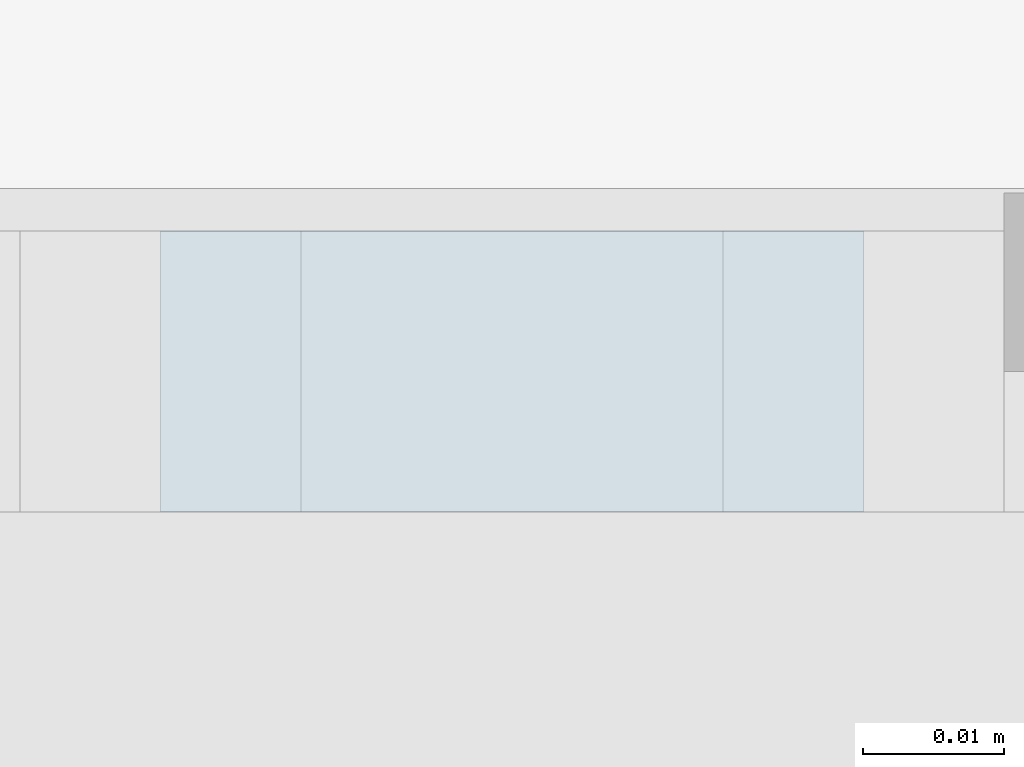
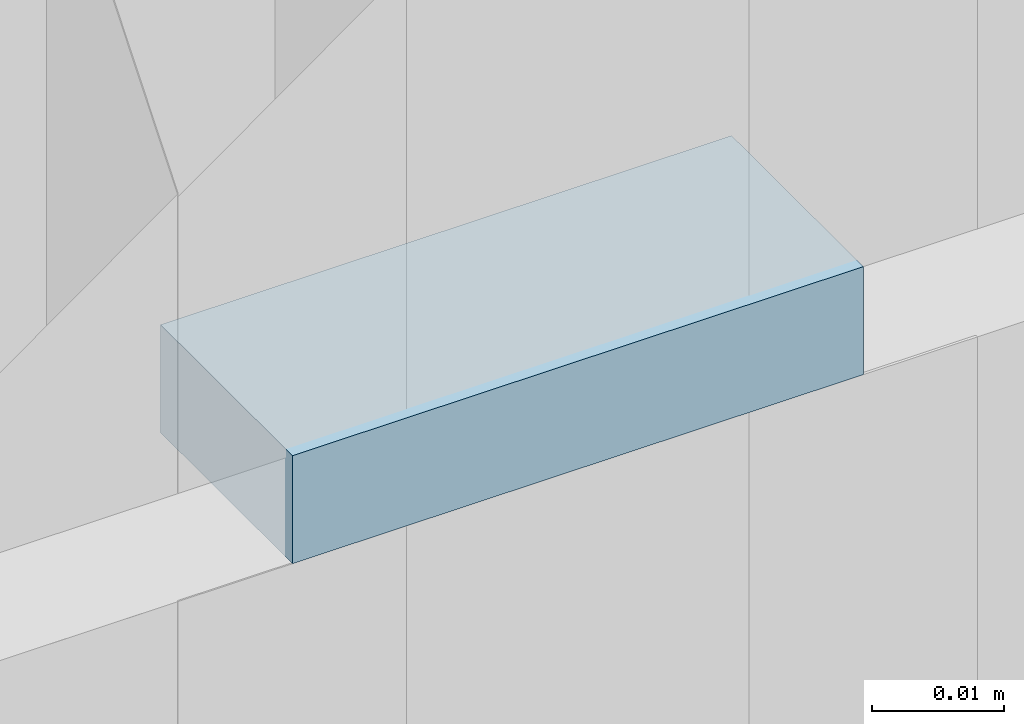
# One storey, part 39 of 66: 1 plate, 1 element without a shape of its own.
"""IFC2X3 building model written with IfcOpenShell, lengths in millimetres."""

import ifcopenshell
import ifcopenshell.guid

model = None  # the IFC model being written
_history = None  # IfcOwnerHistory: only IFC2X3 demands one
_inside = {}  # id of a spatial element -> (the spatial element, [elements in it])
_under = {}  # id of a project, library or spatial element -> (it, [spatial elements below it])
_declared = {}  # id of a project -> (the project, [libraries it declares])
_typed = {}  # id of a type object -> (the type object, [elements of that type])
_made_of = {}  # id of a material, layer set ... -> (it, [elements and type objects made of it])


def new_model(schema):
    """Start an empty IFC model of exactly this schema.

    Asked for "IFC4X3", IfcOpenShell would pick the latest addendum, in which some entities
    have other attributes; the version numbers below select the first issue.
    IFC2X3 requires an IfcOwnerHistory on every rooted entity: one is made here for all.
    """
    global model, _history
    if schema == "IFC4X3":
        model = ifcopenshell.file(schema_version=(4, 3, 0, 0))
    else:
        model = ifcopenshell.file(schema=schema)
    _inside.clear()
    _under.clear()
    _declared.clear()
    _typed.clear()
    _made_of.clear()
    _history = None
    if model.schema == "IFC2X3":
        org = make("IfcOrganization", Name="unknown")
        user = make(
            "IfcPersonAndOrganization",
            ThePerson=make("IfcPerson", FamilyName="unknown"),
            TheOrganization=org,
        )
        app = make(
            "IfcApplication",
            ApplicationDeveloper=org,
            Version="unknown",
            ApplicationFullName="unknown",
            ApplicationIdentifier="unknown",
        )
        _history = make(
            "IfcOwnerHistory",
            OwningUser=user,
            OwningApplication=app,
            ChangeAction="ADDED",
            CreationDate=0,
        )
    return model


def make(cls, **values):
    """One entity of the class cls with the attributes given. An attribute that is None is left unset."""
    return model.create_entity(
        cls, **{name: value for name, value in values.items() if value is not None}
    )


def entity(cls, *values):
    """Any entity or typed value of the class cls, its attributes in the order of the schema. None: left unset."""
    e = model.create_entity(cls)
    for i, value in enumerate(values):
        if value is not None:
            e[i] = value
    return e


def rooted(cls, **values):
    """An entity with a GlobalId (a new one), such as an element, a storey or a relation."""
    return make(cls, GlobalId=ifcopenshell.guid.new(), OwnerHistory=_history, **values)


def si_unit(unit_type, name, prefix=None):
    """IfcSIUnit, for example si_unit("LENGTHUNIT", "METRE", prefix="MILLI")."""
    return make("IfcSIUnit", UnitType=unit_type, Prefix=prefix, Name=name)


def converted_unit(unit_type, name, factor, base, dimensions=None, offset=None):
    """IfcConversionBasedUnit, such as the inch: factor (a typed value) times the base unit."""
    return make(
        "IfcConversionBasedUnit"
        if offset is None
        else "IfcConversionBasedUnitWithOffset",
        ConversionOffset=offset,
        Dimensions=None
        if dimensions is None
        else entity("IfcDimensionalExponents", *dimensions),
        UnitType=unit_type,
        Name=name,
        ConversionFactor=make(
            "IfcMeasureWithUnit", ValueComponent=factor, UnitComponent=base
        ),
    )


def derived_unit(unit_type, elements):
    """IfcDerivedUnit: a product of units, each with its exponent."""
    return make(
        "IfcDerivedUnit",
        Elements=[
            make("IfcDerivedUnitElement", Unit=unit, Exponent=power)
            for unit, power in elements
        ],
        UnitType=unit_type,
    )


def assignment(units):
    """IfcUnitAssignment: the units of a project."""
    return None if units is None else make("IfcUnitAssignment", Units=units)


def point(xyz):
    """IfcCartesianPoint."""
    return None if xyz is None else make("IfcCartesianPoint", Coordinates=xyz)


def direction(xyz):
    """IfcDirection."""
    return None if xyz is None else make("IfcDirection", DirectionRatios=xyz)


def frame(location, z_axis=None, x_axis=None):
    """IfcAxis2Placement3D, a coordinate frame: its origin and axes. An axis left out is left unset."""
    return make(
        "IfcAxis2Placement3D",
        Location=point(location),
        Axis=direction(z_axis),
        RefDirection=direction(x_axis),
    )


def frame_2d(location, x_axis=None):
    """IfcAxis2Placement2D, a coordinate frame in the plane: its origin and x axis."""
    return make(
        "IfcAxis2Placement2D", Location=point(location), RefDirection=direction(x_axis)
    )


def origin():
    """The frame at (0, 0, 0) with its axes left unset."""
    return frame((0.0, 0.0, 0.0))


def origin_2d_with_axis():
    """The frame at (0, 0) in the plane with the x axis (1, 0) written out."""
    return frame_2d((0.0, 0.0), x_axis=(1.0, 0.0))


def place(relative_to, where):
    """IfcLocalPlacement: puts the frame where relative to a parent placement (None: the world)."""
    return make(
        "IfcLocalPlacement", PlacementRelTo=relative_to, RelativePlacement=where
    )


def context(
    kind, dimensions, precision=None, world=None, true_north=None, identifier=None
):
    """IfcGeometricRepresentationContext, for example the 3D "Model" context."""
    return make(
        "IfcGeometricRepresentationContext",
        ContextIdentifier=identifier,
        ContextType=kind,
        CoordinateSpaceDimension=dimensions,
        Precision=precision,
        WorldCoordinateSystem=world,
        TrueNorth=true_north,
    )


def subcontext(parent, identifier, kind, view, scale=None):
    """IfcGeometricRepresentationSubContext, for example "Body" below "Model"."""
    return make(
        "IfcGeometricRepresentationSubContext",
        ContextIdentifier=identifier,
        ContextType=kind,
        ParentContext=parent,
        TargetScale=scale,
        TargetView=view,
    )


def project(units=None, contexts=None):
    """IfcProject with its units and contexts."""
    return rooted(
        "IfcProject",
        Name="project",
        RepresentationContexts=contexts,
        UnitsInContext=assignment(units),
    )


def spatial(cls, under=None, at=None, **own):
    """A site, building, storey or space (cls), placed at a placement, below another one or the project."""
    s = rooted(cls, ObjectPlacement=at, **own)
    if under is not None:
        _under.setdefault(under.id(), (under, []))[1].append(s)
    return s


def profile(cls, at=None, kind="AREA", **sizes):
    """A parametric profile (cls). Its sizes go by their IFC names, for example OverallWidth=200.0."""
    return make(cls, ProfileType=kind, Position=at, **sizes)


def rectangle(**sizes):
    """IfcRectangleProfileDef."""
    return profile("IfcRectangleProfileDef", **sizes)


def extrude(swept, where, along, depth):
    """IfcExtrudedAreaSolid: the profile swept, set in the frame where, extruded along a direction by depth."""
    return make(
        "IfcExtrudedAreaSolid",
        SweptArea=swept,
        Position=where,
        ExtrudedDirection=direction(along),
        Depth=depth,
    )


def shape(context_of_items, identifier, shape_type, items):
    """IfcShapeRepresentation: the items that make up one representation, for example the "Body"."""
    return make(
        "IfcShapeRepresentation",
        ContextOfItems=context_of_items,
        RepresentationIdentifier=identifier,
        RepresentationType=shape_type,
        Items=items,
    )


def source(mapping_origin, context_of_items, identifier, shape_type, items):
    """IfcRepresentationMap: a shape defined once, which mapped items show again and again."""
    return make(
        "IfcRepresentationMap",
        MappingOrigin=mapping_origin,
        MappedRepresentation=shape(context_of_items, identifier, shape_type, items),
    )


def transform(
    local_origin,
    x_axis=None,
    y_axis=None,
    z_axis=None,
    scale=None,
    scale2=None,
    scale3=None,
    uniform=True,
):
    """IfcCartesianTransformationOperator3D, or its non-uniform kind. x_axis, y_axis, z_axis: its Axis1, 2, 3."""
    if uniform:
        return make(
            "IfcCartesianTransformationOperator3D",
            Axis1=direction(x_axis),
            Axis2=direction(y_axis),
            LocalOrigin=point(local_origin),
            Scale=scale,
            Axis3=direction(z_axis),
        )
    return make(
        "IfcCartesianTransformationOperator3DnonUniform",
        Axis1=direction(x_axis),
        Axis2=direction(y_axis),
        LocalOrigin=point(local_origin),
        Scale=scale,
        Axis3=direction(z_axis),
        Scale2=scale2,
        Scale3=scale3,
    )


def mapped(mapping_source, mapping_target):
    """IfcMappedItem: shows the shape of a source again, moved by a transform."""
    return make(
        "IfcMappedItem", MappingSource=mapping_source, MappingTarget=mapping_target
    )


def material(Name=None, Category=None):
    """IfcMaterial."""
    return make("IfcMaterial", Name=Name, Category=Category)


def layer(
    of_material, thickness, ventilated=None, Name=None, Category=None, Priority=None
):
    """IfcMaterialLayer: one layer of a wall or slab, of a material (None: an air gap)."""
    return make(
        "IfcMaterialLayer",
        Material=of_material,
        LayerThickness=thickness,
        IsVentilated=ventilated,
        Name=Name,
        Category=Category,
        Priority=Priority,
    )


def layer_set(layers, Name=None):
    """IfcMaterialLayerSet."""
    return make("IfcMaterialLayerSet", MaterialLayers=layers, LayerSetName=Name)


def layer_usage(for_layer_set, set_direction, sense, offset, extent=None):
    """IfcMaterialLayerSetUsage: how a layer set lies in its element."""
    return make(
        "IfcMaterialLayerSetUsage",
        ForLayerSet=for_layer_set,
        LayerSetDirection=set_direction,
        DirectionSense=sense,
        OffsetFromReferenceLine=offset,
        ReferenceExtent=extent,
    )


def made_of(thing, what):
    """Note that an element or type object is made of a material, layer set ...; save() writes the relation."""
    if what is not None:
        _made_of.setdefault(what.id(), (what, []))[1].append(thing)
    return thing


def type_object(cls, material=None, **own):
    """A type object (cls), such as IfcWallType, which elements share."""
    return made_of(rooted(cls, **own), material)


def type_shapes(of_type, sources):
    """Give a type object the sources (RepresentationMaps) that its elements show as mapped items."""
    of_type.RepresentationMaps = sources


def element(
    cls,
    number,
    at=None,
    inside=None,
    cuts=None,
    type_object=None,
    material=None,
    context=None,
    identifier="Body",
    shape_type=None,
    held_by="IfcProductDefinitionShape",
    body=None,
    shapes=None,
    **own,
):
    """One element of the class cls, such as IfcWall. Its Tag is "e" and its number.

    at: its placement. inside: the storey or other place that contains it. cuts: it is an
    opening in that element (IfcRelVoidsElement). A single representation is given by context,
    identifier, shape_type and body (its items); several are given by shapes. held_by: the class
    of the entity that holds the representations. save() writes the other relations.
    """
    e = rooted(cls, Tag="e%d" % number, ObjectPlacement=at, **own)
    if body is not None:
        shapes = [shape(context, identifier, shape_type, body)]
    if shapes is not None:
        e.Representation = make(held_by, Representations=shapes)
    if inside is not None:
        _inside.setdefault(inside.id(), (inside, []))[1].append(e)
    if cuts is not None:
        rooted(
            "IfcRelVoidsElement", RelatingBuildingElement=cuts, RelatedOpeningElement=e
        )
    if type_object is not None:
        _typed.setdefault(type_object.id(), (type_object, []))[1].append(e)
    return made_of(e, material)


def aggregate(whole, parts):
    """IfcRelAggregates: a whole, such as a stair, and the parts it consists of."""
    return rooted("IfcRelAggregates", RelatingObject=whole, RelatedObjects=parts)


def save(model, path):
    """Write the relations noted so far, then the file.

    IfcRelAggregates (storeys below a building ...), IfcRelContainedInSpatialStructure (elements
    in a storey), IfcRelDefinesByType, IfcRelAssociatesMaterial and IfcRelDeclares: one each for
    every whole, place, type object, material and project.
    """
    for whole, parts in _under.values():
        aggregate(whole, parts)
    for where, things in _inside.values():
        rooted(
            "IfcRelContainedInSpatialStructure",
            RelatedElements=things,
            RelatingStructure=where,
        )
    for kind, things in _typed.values():
        rooted("IfcRelDefinesByType", RelatedObjects=things, RelatingType=kind)
    for what, things in _made_of.values():
        rooted("IfcRelAssociatesMaterial", RelatedObjects=things, RelatingMaterial=what)
    for by, libraries in _declared.values():
        rooted("IfcRelDeclares", RelatingContext=by, RelatedDefinitions=libraries)
    model.write(path)


model = new_model("IFC2X3")

# Units and contexts
model_context = context("Model", 3, precision=0.01, world=origin(), true_north=direction((6.12303176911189e-17, 1.0)))
body_context = subcontext(model_context, "Body", "Model", "MODEL_VIEW")
ifc_project = project(units=[si_unit("LENGTHUNIT", "METRE", prefix="MILLI"), si_unit("AREAUNIT", "SQUARE_METRE"), si_unit("VOLUMEUNIT", "CUBIC_METRE"), converted_unit("PLANEANGLEUNIT", "DEGREE", entity("IfcRatioMeasure", 0.0174532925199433), si_unit("PLANEANGLEUNIT", "RADIAN"), dimensions=[0, 0, 0, 0, 0, 0, 0]), si_unit("MASSUNIT", "GRAM", prefix="KILO"), derived_unit("MASSDENSITYUNIT", [(si_unit("MASSUNIT", "GRAM", prefix="KILO"), 1), (si_unit("LENGTHUNIT", "METRE"), -3)]), si_unit("TIMEUNIT", "SECOND"), si_unit("FREQUENCYUNIT", "HERTZ"), si_unit("THERMODYNAMICTEMPERATUREUNIT", "DEGREE_CELSIUS"), derived_unit("THERMALTRANSMITTANCEUNIT", [(si_unit("MASSUNIT", "GRAM", prefix="KILO"), 1), (si_unit("THERMODYNAMICTEMPERATUREUNIT", "KELVIN"), -1), (si_unit("TIMEUNIT", "SECOND"), -3)]), derived_unit("VOLUMETRICFLOWRATEUNIT", [(si_unit("LENGTHUNIT", "METRE"), 3), (si_unit("TIMEUNIT", "SECOND"), -1)]), si_unit("ELECTRICCURRENTUNIT", "AMPERE"), si_unit("ELECTRICVOLTAGEUNIT", "VOLT"), si_unit("POWERUNIT", "WATT"), si_unit("FORCEUNIT", "NEWTON", prefix="KILO"), si_unit("ILLUMINANCEUNIT", "LUX"), si_unit("LUMINOUSFLUXUNIT", "LUMEN"), si_unit("LUMINOUSINTENSITYUNIT", "CANDELA"), derived_unit("USERDEFINED", [(si_unit("MASSUNIT", "GRAM", prefix="KILO"), -1), (si_unit("LENGTHUNIT", "METRE"), -2), (si_unit("TIMEUNIT", "SECOND"), 3), (si_unit("LUMINOUSFLUXUNIT", "LUMEN"), 1)]), derived_unit("LINEARVELOCITYUNIT", [(si_unit("LENGTHUNIT", "METRE"), 1), (si_unit("TIMEUNIT", "SECOND"), -1)]), si_unit("PRESSUREUNIT", "PASCAL"), derived_unit("USERDEFINED", [(si_unit("LENGTHUNIT", "METRE"), -2), (si_unit("MASSUNIT", "GRAM", prefix="KILO"), 1), (si_unit("TIMEUNIT", "SECOND"), -2)])], contexts=[model_context])

# Site, building, storey
site_placement = place(None, frame((-151.875543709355, 2715.0, 0.0)))
site = spatial("IfcSite", under=ifc_project, at=site_placement, Name="Surface", CompositionType="ELEMENT")
building_placement = place(site_placement, origin())
building = spatial("IfcBuilding", under=site, at=building_placement, CompositionType="ELEMENT")
storey_placement = place(building_placement, frame((0.0, 0.0, 3350.0)))
storey = spatial("IfcBuildingStorey", under=building, at=storey_placement, Name="2 korrus", CompositionType="ELEMENT", Elevation=3350.00000000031)

# Curtain wall, plate
curtain_wall_type = type_object("IfcCurtainWallType", Name="Curtain Wall:Klaassein KLS-09", PredefinedType="NOTDEFINED")
curtain_wall_placement = place(storey_placement, frame((0.0, 0.0, -3350.0)))
curtain_wall = element("IfcCurtainWall", 1, at=curtain_wall_placement, inside=storey, type_object=curtain_wall_type, Name="Curtain Wall:Klaassein KLS-09", ObjectType="Curtain Wall:Klaassein KLS-09")
ifc_material = material(Name="<Unnamed>")
ifc_layer = layer(ifc_material, 20.0)
ifc_layer_set = layer_set([ifc_layer], Name="Curtain Wall:Klaassein KLS-01")
ifc_layer_usage = layer_usage(ifc_layer_set, "AXIS3", "POSITIVE", 0.0)
plate_type = type_object("IfcPlateType", Name="Glazed", PredefinedType="CURTAIN_PANEL", material=ifc_layer_set)
shared_shape = source(origin(), body_context, "Body", "SweptSolid", [
    extrude(rectangle(XDim=20.0, YDim=49.9999999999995, at=origin_2d_with_axis()), frame((0.0, 0.0, 0.0), z_axis=(0.0, 0.0, 1.0), x_axis=(0.0, 1.0, 0.0)), (0.0, 0.0, 1.0), 9.99999999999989),
])
type_shapes(plate_type, [shared_shape])
plate_placement = place(curtain_wall_placement, frame((13403.5552877, 4352.04493399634, 5440.0)))
plate = element("IfcPlate", 2, at=plate_placement, type_object=plate_type, material=ifc_layer_usage, Name="System Panel:Glazed", ObjectType="Glazed", context=body_context, shape_type="MappedRepresentation", body=[
    mapped(shared_shape, transform((0.0, 0.0, 0.0), scale=1.0)),
])
aggregate(curtain_wall, [plate])

save(model, "model.ifc")
